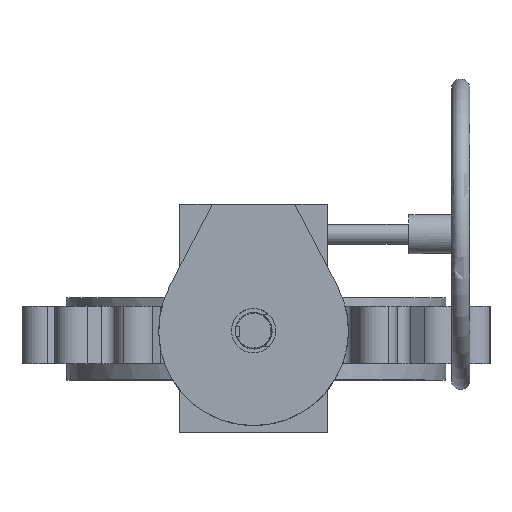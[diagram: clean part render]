
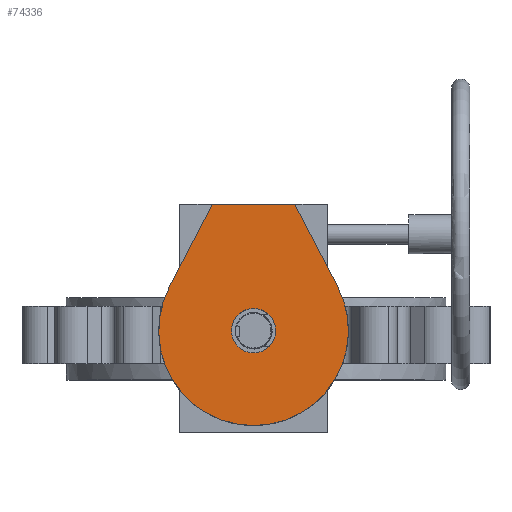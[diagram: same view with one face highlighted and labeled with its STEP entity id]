
A CAD part, top view. The second image highlights one B-rep face of the part: STEP entity #74336.
In plain terms, the highlighted planar face has unit normal (0, 0, 1).
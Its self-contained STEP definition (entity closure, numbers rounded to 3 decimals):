
#73842 = PLANE('',#73843);
#73843 = AXIS2_PLACEMENT_3D('',#73844,#73845,#73846);
#73844 = CARTESIAN_POINT('',(88.7,156.5,527.6));
#73845 = DIRECTION('',(0.,-1.,0.));
#73846 = DIRECTION('',(1.,0.,0.));
#73870 = PLANE('',#73871);
#73871 = AXIS2_PLACEMENT_3D('',#73872,#73873,#73874);
#73872 = CARTESIAN_POINT('',(48.06,156.5,538.6));
#73873 = DIRECTION('',(0.887,0.461,0.));
#73874 = DIRECTION('',(-0.461,0.887,0.));
#74010 = CYLINDRICAL_SURFACE('',#74011,117.5);
#74011 = AXIS2_PLACEMENT_3D('',#74012,#74013,#74014);
#74012 = CARTESIAN_POINT('',(-3.,0.,527.6));
#74013 = DIRECTION('',(0.,0.,1.));
#74014 = DIRECTION('',(-1.,0.,0.));
#74199 = VERTEX_POINT('',#74200);
#74200 = CARTESIAN_POINT('',(101.249,54.206,538.6));
#74221 = EDGE_CURVE('',#74199,#74222,#74224,.T.);
#74222 = VERTEX_POINT('',#74223);
#74223 = CARTESIAN_POINT('',(-107.249,54.206,538.6));
#74224 = SURFACE_CURVE('',#74225,(#74230,#74237),.PCURVE_S1.);
#74225 = CIRCLE('',#74226,117.5);
#74226 = AXIS2_PLACEMENT_3D('',#74227,#74228,#74229);
#74227 = CARTESIAN_POINT('',(-3.,0.,538.6));
#74228 = DIRECTION('',(0.,0.,-1.));
#74229 = DIRECTION('',(0.,1.,0.));
#74230 = PCURVE('',#74010,#74231);
#74231 = DEFINITIONAL_REPRESENTATION('',(#74232),#74236);
#74232 = LINE('',#74233,#74234);
#74233 = CARTESIAN_POINT('',(4.712,11.));
#74234 = VECTOR('',#74235,1.);
#74235 = DIRECTION('',(-1.,0.));
#74236 = ( GEOMETRIC_REPRESENTATION_CONTEXT(2) 
PARAMETRIC_REPRESENTATION_CONTEXT() REPRESENTATION_CONTEXT('2D SPACE',''
  ) );
#74237 = PCURVE('',#74238,#74243);
#74238 = PLANE('',#74239);
#74239 = AXIS2_PLACEMENT_3D('',#74240,#74241,#74242);
#74240 = CARTESIAN_POINT('',(-3.,0.,538.6));
#74241 = DIRECTION('',(0.,0.,-1.));
#74242 = DIRECTION('',(-1.,0.,0.));
#74243 = DEFINITIONAL_REPRESENTATION('',(#74244),#74248);
#74244 = CIRCLE('',#74245,117.5);
#74245 = AXIS2_PLACEMENT_2D('',#74246,#74247);
#74246 = CARTESIAN_POINT('',(0.,0.));
#74247 = DIRECTION('',(0.,1.));
#74248 = ( GEOMETRIC_REPRESENTATION_CONTEXT(2) 
PARAMETRIC_REPRESENTATION_CONTEXT() REPRESENTATION_CONTEXT('2D SPACE',''
  ) );
#74266 = PLANE('',#74267);
#74267 = AXIS2_PLACEMENT_3D('',#74268,#74269,#74270);
#74268 = CARTESIAN_POINT('',(-54.06,156.5,538.6));
#74269 = DIRECTION('',(-0.887,0.461,0.));
#74270 = DIRECTION('',(-0.461,-0.887,0.));
#74336 = ADVANCED_FACE('',(#74337,#74368),#74238,.F.);
#74337 = FACE_BOUND('',#74338,.T.);
#74338 = EDGE_LOOP('',(#74339));
#74339 = ORIENTED_EDGE('',*,*,#74340,.T.);
#74340 = EDGE_CURVE('',#74341,#74341,#74343,.T.);
#74341 = VERTEX_POINT('',#74342);
#74342 = CARTESIAN_POINT('',(-30.5,0.,538.6));
#74343 = SURFACE_CURVE('',#74344,(#74349,#74356),.PCURVE_S1.);
#74344 = CIRCLE('',#74345,27.5);
#74345 = AXIS2_PLACEMENT_3D('',#74346,#74347,#74348);
#74346 = CARTESIAN_POINT('',(-3.,0.,538.6));
#74347 = DIRECTION('',(0.,0.,-1.));
#74348 = DIRECTION('',(-1.,0.,0.));
#74349 = PCURVE('',#74238,#74350);
#74350 = DEFINITIONAL_REPRESENTATION('',(#74351),#74355);
#74351 = CIRCLE('',#74352,27.5);
#74352 = AXIS2_PLACEMENT_2D('',#74353,#74354);
#74353 = CARTESIAN_POINT('',(0.,0.));
#74354 = DIRECTION('',(1.,0.));
#74355 = ( GEOMETRIC_REPRESENTATION_CONTEXT(2) 
PARAMETRIC_REPRESENTATION_CONTEXT() REPRESENTATION_CONTEXT('2D SPACE',''
  ) );
#74356 = PCURVE('',#74357,#74362);
#74357 = CYLINDRICAL_SURFACE('',#74358,27.5);
#74358 = AXIS2_PLACEMENT_3D('',#74359,#74360,#74361);
#74359 = CARTESIAN_POINT('',(-3.,0.,667.911));
#74360 = DIRECTION('',(0.,0.,1.));
#74361 = DIRECTION('',(-1.,0.,0.));
#74362 = DEFINITIONAL_REPRESENTATION('',(#74363),#74367);
#74363 = LINE('',#74364,#74365);
#74364 = CARTESIAN_POINT('',(6.283,-129.311));
#74365 = VECTOR('',#74366,1.);
#74366 = DIRECTION('',(-1.,0.));
#74367 = ( GEOMETRIC_REPRESENTATION_CONTEXT(2) 
PARAMETRIC_REPRESENTATION_CONTEXT() REPRESENTATION_CONTEXT('2D SPACE',''
  ) );
#74368 = FACE_BOUND('',#74369,.T.);
#74369 = EDGE_LOOP('',(#74370,#74393,#74416,#74437));
#74370 = ORIENTED_EDGE('',*,*,#74371,.F.);
#74371 = EDGE_CURVE('',#74372,#74199,#74374,.T.);
#74372 = VERTEX_POINT('',#74373);
#74373 = CARTESIAN_POINT('',(48.06,156.5,538.6));
#74374 = SURFACE_CURVE('',#74375,(#74379,#74386),.PCURVE_S1.);
#74375 = LINE('',#74376,#74377);
#74376 = CARTESIAN_POINT('',(48.06,156.5,538.6));
#74377 = VECTOR('',#74378,1.);
#74378 = DIRECTION('',(0.461,-0.887,0.));
#74379 = PCURVE('',#74238,#74380);
#74380 = DEFINITIONAL_REPRESENTATION('',(#74381),#74385);
#74381 = LINE('',#74382,#74383);
#74382 = CARTESIAN_POINT('',(-51.06,156.5));
#74383 = VECTOR('',#74384,1.);
#74384 = DIRECTION('',(-0.461,-0.887));
#74385 = ( GEOMETRIC_REPRESENTATION_CONTEXT(2) 
PARAMETRIC_REPRESENTATION_CONTEXT() REPRESENTATION_CONTEXT('2D SPACE',''
  ) );
#74386 = PCURVE('',#73870,#74387);
#74387 = DEFINITIONAL_REPRESENTATION('',(#74388),#74392);
#74388 = LINE('',#74389,#74390);
#74389 = CARTESIAN_POINT('',(0.,0.));
#74390 = VECTOR('',#74391,1.);
#74391 = DIRECTION('',(-1.,0.));
#74392 = ( GEOMETRIC_REPRESENTATION_CONTEXT(2) 
PARAMETRIC_REPRESENTATION_CONTEXT() REPRESENTATION_CONTEXT('2D SPACE',''
  ) );
#74393 = ORIENTED_EDGE('',*,*,#74394,.F.);
#74394 = EDGE_CURVE('',#74395,#74372,#74397,.T.);
#74395 = VERTEX_POINT('',#74396);
#74396 = CARTESIAN_POINT('',(-54.06,156.5,538.6));
#74397 = SURFACE_CURVE('',#74398,(#74402,#74409),.PCURVE_S1.);
#74398 = LINE('',#74399,#74400);
#74399 = CARTESIAN_POINT('',(-54.06,156.5,538.6));
#74400 = VECTOR('',#74401,1.);
#74401 = DIRECTION('',(1.,0.,0.));
#74402 = PCURVE('',#74238,#74403);
#74403 = DEFINITIONAL_REPRESENTATION('',(#74404),#74408);
#74404 = LINE('',#74405,#74406);
#74405 = CARTESIAN_POINT('',(51.06,156.5));
#74406 = VECTOR('',#74407,1.);
#74407 = DIRECTION('',(-1.,0.));
#74408 = ( GEOMETRIC_REPRESENTATION_CONTEXT(2) 
PARAMETRIC_REPRESENTATION_CONTEXT() REPRESENTATION_CONTEXT('2D SPACE',''
  ) );
#74409 = PCURVE('',#73842,#74410);
#74410 = DEFINITIONAL_REPRESENTATION('',(#74411),#74415);
#74411 = LINE('',#74412,#74413);
#74412 = CARTESIAN_POINT('',(-142.76,11.));
#74413 = VECTOR('',#74414,1.);
#74414 = DIRECTION('',(1.,0.));
#74415 = ( GEOMETRIC_REPRESENTATION_CONTEXT(2) 
PARAMETRIC_REPRESENTATION_CONTEXT() REPRESENTATION_CONTEXT('2D SPACE',''
  ) );
#74416 = ORIENTED_EDGE('',*,*,#74417,.F.);
#74417 = EDGE_CURVE('',#74222,#74395,#74418,.T.);
#74418 = SURFACE_CURVE('',#74419,(#74423,#74430),.PCURVE_S1.);
#74419 = LINE('',#74420,#74421);
#74420 = CARTESIAN_POINT('',(-54.06,156.5,538.6));
#74421 = VECTOR('',#74422,1.);
#74422 = DIRECTION('',(0.461,0.887,0.));
#74423 = PCURVE('',#74238,#74424);
#74424 = DEFINITIONAL_REPRESENTATION('',(#74425),#74429);
#74425 = LINE('',#74426,#74427);
#74426 = CARTESIAN_POINT('',(51.06,156.5));
#74427 = VECTOR('',#74428,1.);
#74428 = DIRECTION('',(-0.461,0.887));
#74429 = ( GEOMETRIC_REPRESENTATION_CONTEXT(2) 
PARAMETRIC_REPRESENTATION_CONTEXT() REPRESENTATION_CONTEXT('2D SPACE',''
  ) );
#74430 = PCURVE('',#74266,#74431);
#74431 = DEFINITIONAL_REPRESENTATION('',(#74432),#74436);
#74432 = LINE('',#74433,#74434);
#74433 = CARTESIAN_POINT('',(0.,0.));
#74434 = VECTOR('',#74435,1.);
#74435 = DIRECTION('',(-1.,0.));
#74436 = ( GEOMETRIC_REPRESENTATION_CONTEXT(2) 
PARAMETRIC_REPRESENTATION_CONTEXT() REPRESENTATION_CONTEXT('2D SPACE',''
  ) );
#74437 = ORIENTED_EDGE('',*,*,#74221,.F.);
